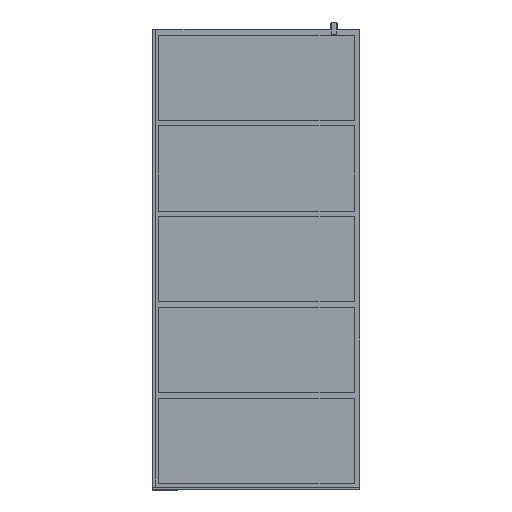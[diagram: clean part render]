
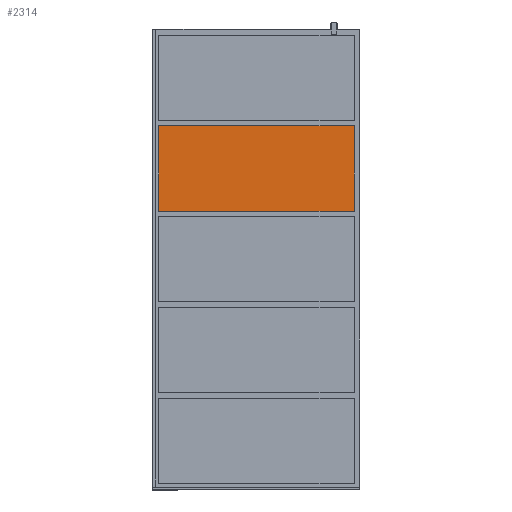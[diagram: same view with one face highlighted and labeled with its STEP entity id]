
A CAD part, front view. The second image highlights one B-rep face of the part: STEP entity #2314.
In plain terms, the highlighted planar face has unit normal (0, -1, 0) as drawn and (0, 1, 0) by its records, which use the part's own axes.
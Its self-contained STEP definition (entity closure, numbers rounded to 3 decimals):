
#241=FACE_OUTER_BOUND($,#366,.T.);
#366=EDGE_LOOP($,(#1614,#1615,#1616,#1617));
#556=LINE($,#3389,#808);
#560=LINE($,#3397,#812);
#570=LINE($,#3415,#822);
#571=LINE($,#3416,#823);
#808=VECTOR($,#2698,850.);
#812=VECTOR($,#2704,370.);
#822=VECTOR($,#2722,370.);
#823=VECTOR($,#2723,850.);
#1060=VERTEX_POINT($,#3387);
#1061=VERTEX_POINT($,#3388);
#1064=VERTEX_POINT($,#3396);
#1068=VERTEX_POINT($,#3414);
#1279=EDGE_CURVE($,#1060,#1061,#556,.T.);
#1283=EDGE_CURVE($,#1064,#1060,#560,.T.);
#1293=EDGE_CURVE($,#1061,#1068,#570,.T.);
#1294=EDGE_CURVE($,#1068,#1064,#571,.T.);
#1614=ORIENTED_EDGE($,*,*,#1279,.T.);
#1615=ORIENTED_EDGE($,*,*,#1293,.T.);
#1616=ORIENTED_EDGE($,*,*,#1294,.T.);
#1617=ORIENTED_EDGE($,*,*,#1283,.T.);
#2214=PLANE($,#2463);
#2314=ADVANCED_FACE($,(#241),#2214,.T.);
#2463=AXIS2_PLACEMENT_3D($,#3413,#2720,#2721);
#2698=DIRECTION($,(1.,0.,0.));
#2704=DIRECTION($,(0.,0.,1.));
#2720=DIRECTION('center_axis',(0.,1.,0.));
#2721=DIRECTION('ref_axis',(-1.,0.,0.));
#2722=DIRECTION($,(0.,0.,-1.));
#2723=DIRECTION($,(-1.,0.,0.));
#3387=CARTESIAN_POINT('',(25.,10.,790.));
#3388=CARTESIAN_POINT('',(875.,10.,790.));
#3389=CARTESIAN_POINT($,(462.5,10.,790.));
#3396=CARTESIAN_POINT('',(25.,10.,420.));
#3397=CARTESIAN_POINT($,(25.,10.,987.5));
#3413=CARTESIAN_POINT('Origin',(900.,10.,0.));
#3414=CARTESIAN_POINT('',(875.,10.,420.));
#3415=CARTESIAN_POINT($,(875.,10.,12.5));
#3416=CARTESIAN_POINT($,(887.5,10.,420.));
